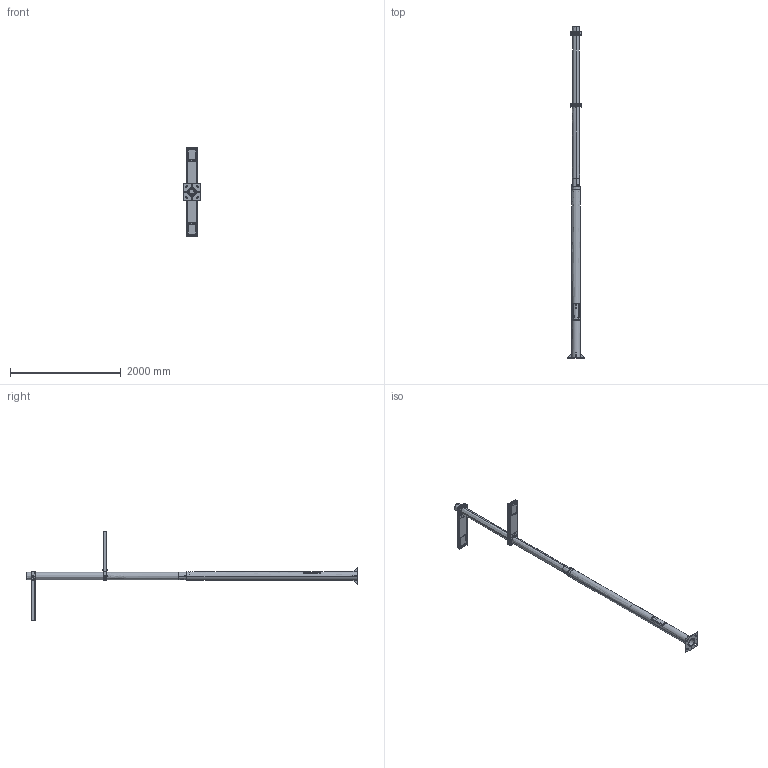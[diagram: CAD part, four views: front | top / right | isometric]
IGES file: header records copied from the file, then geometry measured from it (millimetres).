
Start section: SolidWorks IGES file using analytic representation for surfaces
Global section: file name: C:\SANTACOLE_PDM\Proyectos Catálogo\PROD-P08-042 -- RAMA LED\6_Técnico comercial\3D WEB\FAROLA RAMA LED 6.0M 2 LUMINARIAS DIFERENTE ALTURA 2 SECCIONES.IGS; native system: SolidWorks 2013; preprocessor: SolidWorks 2013; author: MarioV; date: 150331.133825; units: millimetre
Bounding box: 300 x 6000 x 1626 mm (x, y, z)
Volume: 13697059 mm3; surface area: 7894763.5 mm2
Topology: 68 solids, 68 shells, 7692 faces, 20555 edges, 12966 vertices
Faces by surface type: plane 4628, revolution 1806, bspline 1258
